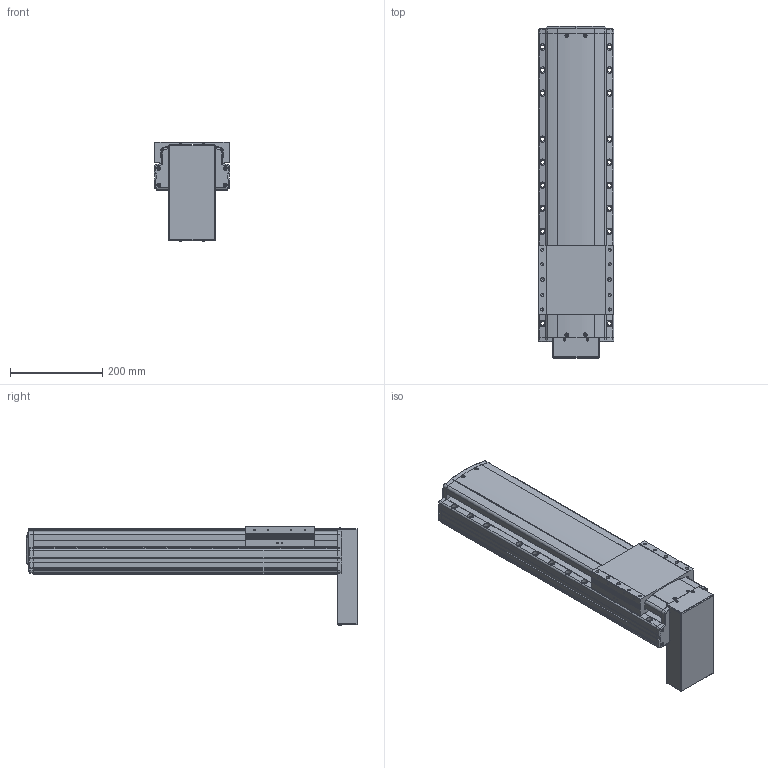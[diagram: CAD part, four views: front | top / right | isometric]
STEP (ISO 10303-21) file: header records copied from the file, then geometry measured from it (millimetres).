
FILE_DESCRIPTION(('STEP AP214'),'1');
FILE_NAME('Z:/Web/3D/PSA165/STP/PSA165-400 (3D)/PSA165ㅁㅁ-400PB.stp','2014-06-23T11:12:30',(' '),(' '),'Spatial InterOp 3D',' ',' ');
FILE_SCHEMA(('automotive_design'));
Length unit declared in the file: millimetre
Products named in the file (29): 스크루 : Round - M4.0 x 12.0; RRCV-PA160; BASE; 스크루 : Round - M4.0 x 10.0; RN15; Screw 20; SLIDE; FRCV; MTPL CV- PB; 스크루 : Round - M3.0 x 6.0; 1; 2
Bounding box: 165 x 720.8 x 215.96 mm (x, y, z)
Volume: 10390783.3 mm3; surface area: 742423.7 mm2
Topology: 29 solids, 29 shells, 2135 faces, 5712 edges, 3640 vertices
Faces by surface type: plane 1166, cylinder 670, cone 206, sphere 52, bspline 25, torus 16
Entity records: 86705 total; most frequent: CARTESIAN_POINT 15390, DIRECTION 11363, ORIENTED_EDGE 11148, EDGE_CURVE 5574, AXIS2_PLACEMENT_3D 3833, LINE 3697, VECTOR 3697, VERTEX_POINT 3640
